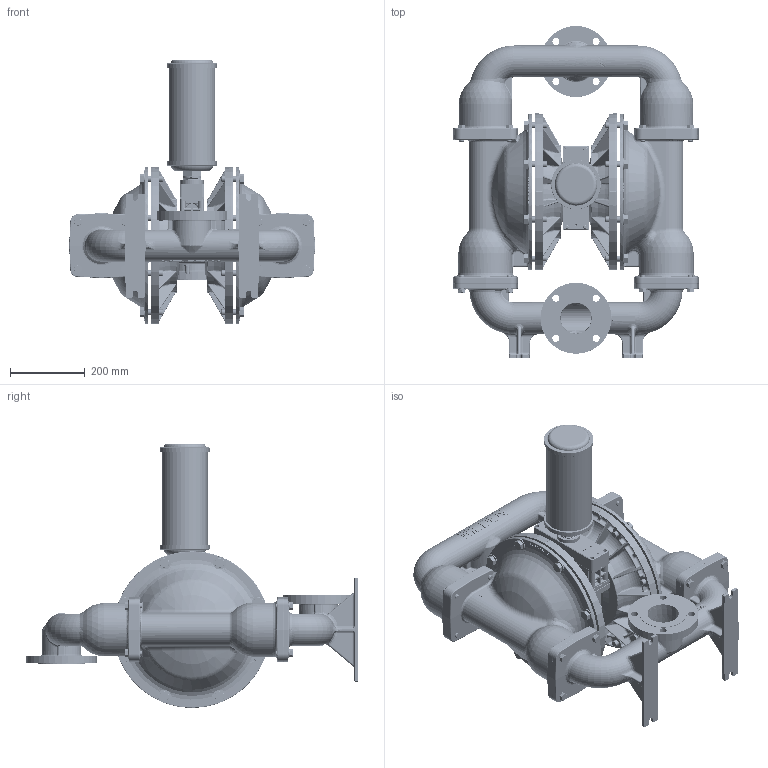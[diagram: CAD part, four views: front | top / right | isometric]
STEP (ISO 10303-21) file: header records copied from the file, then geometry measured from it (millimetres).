
FILE_DESCRIPTION((''),'2;1');
FILE_NAME('PS1500_ADV_SS_DROP-IN_SW0001','2013-06-07T',('Bill.Watson'),(''),'PRO/ENGINEER BY PARAMETRIC TECHNOLOGY CORPORATION, 2011180','PRO/ENGINEER BY PARAMETRIC TECHNOLOGY CORPORATION, 2011180','');
FILE_SCHEMA(('CONFIG_CONTROL_DESIGN'));
Length unit declared in the file: inch
Products named in the file (1): PS1500_ADV_SS_DROP-IN_SW0001
Bounding box: 659.94 x 890.9 x 710.18 mm (x, y, z)
Volume: 22783228.7 mm3; surface area: 4250597.2 mm2
Topology: 6 solids, 12 shells, 19752 faces, 51049 edges, 32113 vertices
Faces by surface type: plane 11581, bspline 2798, cylinder 2105, torus 1546, cone 1010, sphere 584, extrusion 128
Entity records: 966015 total; most frequent: CARTESIAN_POINT 504854, ORIENTED_EDGE 102042, DIRECTION 87068, EDGE_CURVE 51021, VERTEX_POINT 32113, VECTOR 31404, LINE 31276, AXIS2_PLACEMENT_3D 27832
